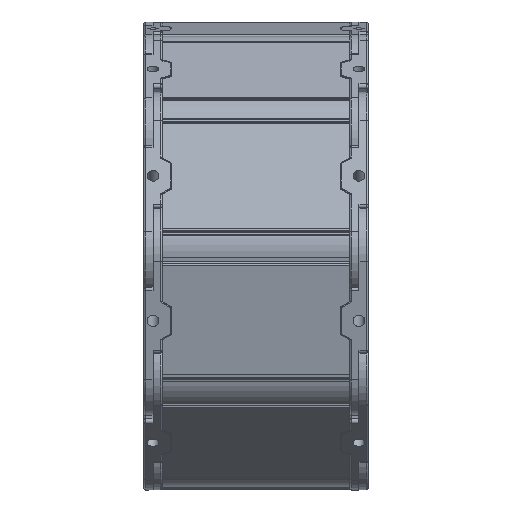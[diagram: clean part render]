
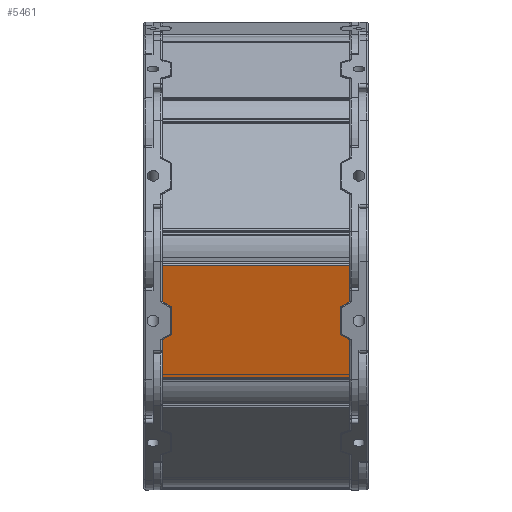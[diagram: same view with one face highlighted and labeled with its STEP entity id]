
A CAD part, front view. The second image highlights one B-rep face of the part: STEP entity #5461.
In plain terms, the highlighted planar face has unit normal (0, -0.97, -0.244) as drawn and (0, 0, 1) by its records, which use the part's own axes.
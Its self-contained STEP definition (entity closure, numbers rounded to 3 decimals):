
#4840=CARTESIAN_POINT('',(-111.861,22.814,8.));
#4841=VERTEX_POINT('',#4840);
#4848=CARTESIAN_POINT('',(-111.861,37.814,8.));
#4849=VERTEX_POINT('',#4848);
#4850=CARTESIAN_POINT('',(-111.861,37.814,8.));
#4851=DIRECTION('',(0.0,-1.0,0.0));
#4852=VECTOR('',#4851,15.0);
#4853=LINE('',#4850,#4852);
#4854=EDGE_CURVE('',#4849,#4841,#4853,.T.);
#4913=CARTESIAN_POINT('',(-116.861,40.7,8.));
#4914=VERTEX_POINT('',#4913);
#4915=CARTESIAN_POINT('',(-116.861,40.7,8.));
#4916=DIRECTION('',(0.866,-0.5,0.0));
#4917=VECTOR('',#4916,5.774);
#4918=LINE('',#4915,#4917);
#4919=EDGE_CURVE('',#4914,#4849,#4918,.T.);
#4977=CARTESIAN_POINT('',(-116.861,19.927,8.));
#4978=VERTEX_POINT('',#4977);
#4985=CARTESIAN_POINT('',(-111.861,22.814,8.));
#4986=DIRECTION('',(-0.866,-0.5,0.0));
#4987=VECTOR('',#4986,5.774);
#4988=LINE('',#4985,#4987);
#4989=EDGE_CURVE('',#4841,#4978,#4988,.T.);
#5158=CARTESIAN_POINT('',(-116.861,62.314,8.));
#5159=VERTEX_POINT('',#5158);
#5160=CARTESIAN_POINT('',(-116.861,62.314,8.));
#5161=DIRECTION('',(0.0,-1.0,0.0));
#5162=VECTOR('',#5161,21.613);
#5163=LINE('',#5160,#5162);
#5164=EDGE_CURVE('',#5159,#4914,#5163,.T.);
#5217=CARTESIAN_POINT('',(-21.861,22.814,8.));
#5218=VERTEX_POINT('',#5217);
#5225=CARTESIAN_POINT('',(-16.861,19.927,8.));
#5226=VERTEX_POINT('',#5225);
#5227=CARTESIAN_POINT('',(-16.861,19.927,8.));
#5228=DIRECTION('',(-0.866,0.5,0.0));
#5229=VECTOR('',#5228,5.774);
#5230=LINE('',#5227,#5229);
#5231=EDGE_CURVE('',#5226,#5218,#5230,.T.);
#5274=CARTESIAN_POINT('',(-16.861,40.7,8.));
#5275=VERTEX_POINT('',#5274);
#5282=CARTESIAN_POINT('',(-21.861,37.814,8.));
#5283=VERTEX_POINT('',#5282);
#5284=CARTESIAN_POINT('',(-21.861,37.814,8.));
#5285=DIRECTION('',(0.866,0.5,0.0));
#5286=VECTOR('',#5285,5.774);
#5287=LINE('',#5284,#5286);
#5288=EDGE_CURVE('',#5283,#5275,#5287,.T.);
#5315=CARTESIAN_POINT('',(-21.861,22.814,8.));
#5316=DIRECTION('',(0.0,1.0,0.0));
#5317=VECTOR('',#5316,15.);
#5318=LINE('',#5315,#5317);
#5319=EDGE_CURVE('',#5218,#5283,#5318,.T.);
#5411=CARTESIAN_POINT('',(-49.,0.,8.));
#5412=DIRECTION('',(0.0,0.0,1.0));
#5413=DIRECTION('',(-1.0,0.0,0.0));
#5414=AXIS2_PLACEMENT_3D('',#5411,#5412,#5413);
#5415=PLANE('',#5414);
#5416=ORIENTED_EDGE('',*,*,#4989,.T.);
#5417=CARTESIAN_POINT('',(-116.861,0.,8.));
#5418=VERTEX_POINT('',#5417);
#5419=CARTESIAN_POINT('',(-116.861,19.927,8.));
#5420=DIRECTION('',(0.0,-1.0,0.0));
#5421=VECTOR('',#5420,19.927);
#5422=LINE('',#5419,#5421);
#5423=EDGE_CURVE('',#4978,#5418,#5422,.T.);
#5424=ORIENTED_EDGE('',*,*,#5423,.T.);
#5425=CARTESIAN_POINT('',(-16.861,0.,8.));
#5426=VERTEX_POINT('',#5425);
#5427=CARTESIAN_POINT('',(-116.861,0.,8.));
#5428=DIRECTION('',(1.0,0.0,0.0));
#5429=VECTOR('',#5428,100.0);
#5430=LINE('',#5427,#5429);
#5431=EDGE_CURVE('',#5418,#5426,#5430,.T.);
#5432=ORIENTED_EDGE('',*,*,#5431,.T.);
#5433=CARTESIAN_POINT('',(-16.861,0.,8.));
#5434=DIRECTION('',(0.0,1.0,0.0));
#5435=VECTOR('',#5434,19.927);
#5436=LINE('',#5433,#5435);
#5437=EDGE_CURVE('',#5426,#5226,#5436,.T.);
#5438=ORIENTED_EDGE('',*,*,#5437,.T.);
#5439=ORIENTED_EDGE('',*,*,#5231,.T.);
#5440=ORIENTED_EDGE('',*,*,#5319,.T.);
#5441=ORIENTED_EDGE('',*,*,#5288,.T.);
#5442=CARTESIAN_POINT('',(-16.861,62.314,8.));
#5443=VERTEX_POINT('',#5442);
#5444=CARTESIAN_POINT('',(-16.861,40.7,8.));
#5445=DIRECTION('',(0.0,1.0,0.0));
#5446=VECTOR('',#5445,21.613);
#5447=LINE('',#5444,#5446);
#5448=EDGE_CURVE('',#5275,#5443,#5447,.T.);
#5449=ORIENTED_EDGE('',*,*,#5448,.T.);
#5450=CARTESIAN_POINT('',(-116.861,62.314,8.));
#5451=DIRECTION('',(1.0,0.0,0.0));
#5452=VECTOR('',#5451,100.);
#5453=LINE('',#5450,#5452);
#5454=EDGE_CURVE('',#5159,#5443,#5453,.T.);
#5455=ORIENTED_EDGE('',*,*,#5454,.F.);
#5456=ORIENTED_EDGE('',*,*,#5164,.T.);
#5457=ORIENTED_EDGE('',*,*,#4919,.T.);
#5458=ORIENTED_EDGE('',*,*,#4854,.T.);
#5459=EDGE_LOOP('',(#5416,#5424,#5432,#5438,#5439,#5440,#5441,#5449,#5455,#5456,#5457,#5458));
#5460=FACE_OUTER_BOUND('',#5459,.T.);
#5461=ADVANCED_FACE('',(#5460),#5415,.T.);
